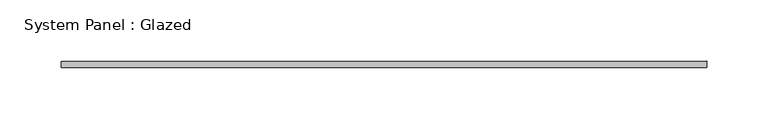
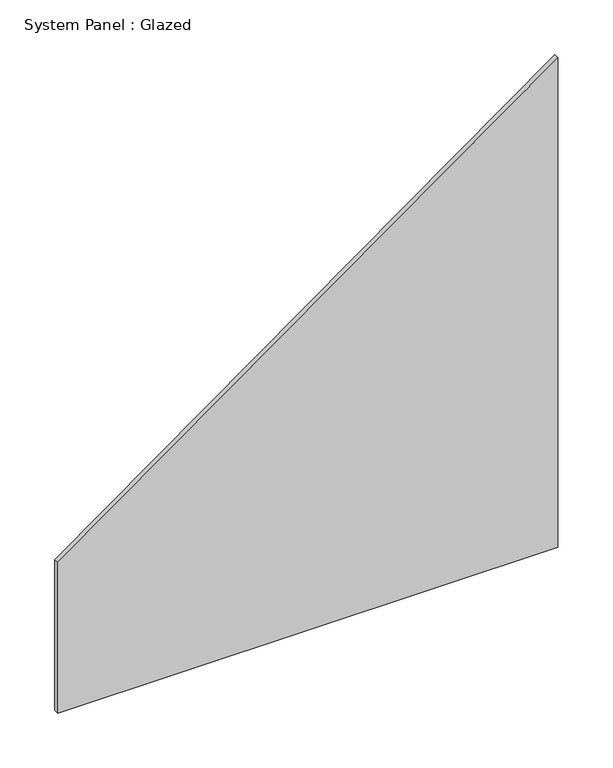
"""IFC4 building model written with IfcOpenShell, lengths in millimetres: plate geometry, System Panel : Glazed."""

import ifcopenshell
import ifcopenshell.guid

model = None  # the IFC model being written
_history = None  # IfcOwnerHistory: only IFC2X3 demands one
_inside = {}  # id of a spatial element -> (the spatial element, [elements in it])
_under = {}  # id of a project, library or spatial element -> (it, [spatial elements below it])
_declared = {}  # id of a project -> (the project, [libraries it declares])
_typed = {}  # id of a type object -> (the type object, [elements of that type])
_made_of = {}  # id of a material, layer set ... -> (it, [elements and type objects made of it])


def new_model(schema):
    """Start an empty IFC model of exactly this schema.

    Asked for "IFC4X3", IfcOpenShell would pick the latest addendum, in which some entities
    have other attributes; the version numbers below select the first issue.
    IFC2X3 requires an IfcOwnerHistory on every rooted entity: one is made here for all.
    """
    global model, _history
    if schema == "IFC4X3":
        model = ifcopenshell.file(schema_version=(4, 3, 0, 0))
    else:
        model = ifcopenshell.file(schema=schema)
    _inside.clear()
    _under.clear()
    _declared.clear()
    _typed.clear()
    _made_of.clear()
    _history = None
    if model.schema == "IFC2X3":
        org = make("IfcOrganization", Name="unknown")
        user = make(
            "IfcPersonAndOrganization",
            ThePerson=make("IfcPerson", FamilyName="unknown"),
            TheOrganization=org,
        )
        app = make(
            "IfcApplication",
            ApplicationDeveloper=org,
            Version="unknown",
            ApplicationFullName="unknown",
            ApplicationIdentifier="unknown",
        )
        _history = make(
            "IfcOwnerHistory",
            OwningUser=user,
            OwningApplication=app,
            ChangeAction="ADDED",
            CreationDate=0,
        )
    return model


def make(cls, **values):
    """One entity of the class cls with the attributes given. An attribute that is None is left unset."""
    return model.create_entity(
        cls, **{name: value for name, value in values.items() if value is not None}
    )


def rooted(cls, **values):
    """An entity with a GlobalId (a new one), such as an element, a storey or a relation."""
    return make(cls, GlobalId=ifcopenshell.guid.new(), OwnerHistory=_history, **values)


def si_unit(unit_type, name, prefix=None):
    """IfcSIUnit, for example si_unit("LENGTHUNIT", "METRE", prefix="MILLI")."""
    return make("IfcSIUnit", UnitType=unit_type, Prefix=prefix, Name=name)


def assignment(units):
    """IfcUnitAssignment: the units of a project."""
    return None if units is None else make("IfcUnitAssignment", Units=units)


def point(xyz):
    """IfcCartesianPoint."""
    return None if xyz is None else make("IfcCartesianPoint", Coordinates=xyz)


def direction(xyz):
    """IfcDirection."""
    return None if xyz is None else make("IfcDirection", DirectionRatios=xyz)


def frame(location, z_axis=None, x_axis=None):
    """IfcAxis2Placement3D, a coordinate frame: its origin and axes. An axis left out is left unset."""
    return make(
        "IfcAxis2Placement3D",
        Location=point(location),
        Axis=direction(z_axis),
        RefDirection=direction(x_axis),
    )


def origin():
    """The frame at (0, 0, 0) with its axes left unset."""
    return frame((0.0, 0.0, 0.0))


def place(relative_to, where):
    """IfcLocalPlacement: puts the frame where relative to a parent placement (None: the world)."""
    return make(
        "IfcLocalPlacement", PlacementRelTo=relative_to, RelativePlacement=where
    )


def context(
    kind, dimensions, precision=None, world=None, true_north=None, identifier=None
):
    """IfcGeometricRepresentationContext, for example the 3D "Model" context."""
    return make(
        "IfcGeometricRepresentationContext",
        ContextIdentifier=identifier,
        ContextType=kind,
        CoordinateSpaceDimension=dimensions,
        Precision=precision,
        WorldCoordinateSystem=world,
        TrueNorth=true_north,
    )


def project(units=None, contexts=None):
    """IfcProject with its units and contexts."""
    return rooted(
        "IfcProject",
        Name="project",
        RepresentationContexts=contexts,
        UnitsInContext=assignment(units),
    )


def spatial(cls, under=None, at=None, **own):
    """A site, building, storey or space (cls), placed at a placement, below another one or the project."""
    s = rooted(cls, ObjectPlacement=at, **own)
    if under is not None:
        _under.setdefault(under.id(), (under, []))[1].append(s)
    return s


def polyline(points):
    """IfcPolyline through the points."""
    return make("IfcPolyline", Points=[point(p) for p in points])


def outline(outer, holes=None, kind="AREA"):
    """IfcArbitraryClosedProfileDef: a profile drawn as a closed curve; with holes, ...WithVoids."""
    if holes is None:
        return make("IfcArbitraryClosedProfileDef", ProfileType=kind, OuterCurve=outer)
    return make(
        "IfcArbitraryProfileDefWithVoids",
        ProfileType=kind,
        OuterCurve=outer,
        InnerCurves=holes,
    )


def extrude(swept, where, along, depth):
    """IfcExtrudedAreaSolid: the profile swept, set in the frame where, extruded along a direction by depth."""
    return make(
        "IfcExtrudedAreaSolid",
        SweptArea=swept,
        Position=where,
        ExtrudedDirection=direction(along),
        Depth=depth,
    )


def shape(context_of_items, identifier, shape_type, items):
    """IfcShapeRepresentation: the items that make up one representation, for example the "Body"."""
    return make(
        "IfcShapeRepresentation",
        ContextOfItems=context_of_items,
        RepresentationIdentifier=identifier,
        RepresentationType=shape_type,
        Items=items,
    )


def source(mapping_origin, context_of_items, identifier, shape_type, items):
    """IfcRepresentationMap: a shape defined once, which mapped items show again and again."""
    return make(
        "IfcRepresentationMap",
        MappingOrigin=mapping_origin,
        MappedRepresentation=shape(context_of_items, identifier, shape_type, items),
    )


def transform(
    local_origin,
    x_axis=None,
    y_axis=None,
    z_axis=None,
    scale=None,
    scale2=None,
    scale3=None,
    uniform=True,
):
    """IfcCartesianTransformationOperator3D, or its non-uniform kind. x_axis, y_axis, z_axis: its Axis1, 2, 3."""
    if uniform:
        return make(
            "IfcCartesianTransformationOperator3D",
            Axis1=direction(x_axis),
            Axis2=direction(y_axis),
            LocalOrigin=point(local_origin),
            Scale=scale,
            Axis3=direction(z_axis),
        )
    return make(
        "IfcCartesianTransformationOperator3DnonUniform",
        Axis1=direction(x_axis),
        Axis2=direction(y_axis),
        LocalOrigin=point(local_origin),
        Scale=scale,
        Axis3=direction(z_axis),
        Scale2=scale2,
        Scale3=scale3,
    )


def mapped(mapping_source, mapping_target):
    """IfcMappedItem: shows the shape of a source again, moved by a transform."""
    return make(
        "IfcMappedItem", MappingSource=mapping_source, MappingTarget=mapping_target
    )


def made_of(thing, what):
    """Note that an element or type object is made of a material, layer set ...; save() writes the relation."""
    if what is not None:
        _made_of.setdefault(what.id(), (what, []))[1].append(thing)
    return thing


def element(
    cls,
    number,
    at=None,
    inside=None,
    cuts=None,
    type_object=None,
    material=None,
    context=None,
    identifier="Body",
    shape_type=None,
    held_by="IfcProductDefinitionShape",
    body=None,
    shapes=None,
    **own,
):
    """One element of the class cls, such as IfcWall. Its Tag is "e" and its number.

    at: its placement. inside: the storey or other place that contains it. cuts: it is an
    opening in that element (IfcRelVoidsElement). A single representation is given by context,
    identifier, shape_type and body (its items); several are given by shapes. held_by: the class
    of the entity that holds the representations. save() writes the other relations.
    """
    e = rooted(cls, Tag="e%d" % number, ObjectPlacement=at, **own)
    if body is not None:
        shapes = [shape(context, identifier, shape_type, body)]
    if shapes is not None:
        e.Representation = make(held_by, Representations=shapes)
    if inside is not None:
        _inside.setdefault(inside.id(), (inside, []))[1].append(e)
    if cuts is not None:
        rooted(
            "IfcRelVoidsElement", RelatingBuildingElement=cuts, RelatedOpeningElement=e
        )
    if type_object is not None:
        _typed.setdefault(type_object.id(), (type_object, []))[1].append(e)
    return made_of(e, material)


def aggregate(whole, parts):
    """IfcRelAggregates: a whole, such as a stair, and the parts it consists of."""
    return rooted("IfcRelAggregates", RelatingObject=whole, RelatedObjects=parts)


def save(model, path):
    """Write the relations noted so far, then the file.

    IfcRelAggregates (storeys below a building ...), IfcRelContainedInSpatialStructure (elements
    in a storey), IfcRelDefinesByType, IfcRelAssociatesMaterial and IfcRelDeclares: one each for
    every whole, place, type object, material and project.
    """
    for whole, parts in _under.values():
        aggregate(whole, parts)
    for where, things in _inside.values():
        rooted(
            "IfcRelContainedInSpatialStructure",
            RelatedElements=things,
            RelatingStructure=where,
        )
    for kind, things in _typed.values():
        rooted("IfcRelDefinesByType", RelatedObjects=things, RelatingType=kind)
    for what, things in _made_of.values():
        rooted("IfcRelAssociatesMaterial", RelatedObjects=things, RelatingMaterial=what)
    for by, libraries in _declared.values():
        rooted("IfcRelDeclares", RelatingContext=by, RelatedDefinitions=libraries)
    model.write(path)


def system_panel_glazed_e7d87ffb(model_context):
    return source(origin(), model_context, "Body", "SweptSolid", [
        extrude(outline(polyline([(0.0, -262.5), (0.0, 262.5), (543.8414981, 262.5), (167.289307, -262.5), (0.0, -262.5)])), frame((0.0, -2.5, 0.0), z_axis=(0.0, 1.0, 0.0), x_axis=(0.0, 0.0, 1.0)), (0.0, 0.0, 1.0), 5.0),
    ])


if __name__ == "__main__":
    model = new_model("IFC4")
    model_context = context("Model", 3, world=origin())
    ifc_project = project(units=[si_unit("LENGTHUNIT", "METRE", prefix="MILLI")], contexts=[model_context])
    site = spatial("IfcSite", under=ifc_project)
    building = spatial("IfcBuilding", under=site)
    placement = place(None, origin())
    system_panel_glazed_shape = system_panel_glazed_e7d87ffb(model_context)
    element("IfcPlate", 1, ObjectType="System Panel : Glazed", at=placement, inside=building, context=model_context, shape_type="MappedRepresentation", body=[
        mapped(system_panel_glazed_shape, transform((0.0, 0.0, 0.0), x_axis=(1.0, 0.0, 0.0), y_axis=(0.0, 1.0, 0.0), z_axis=(0.0, 0.0, 1.0))),
    ])
    save(model, "model.ifc")
